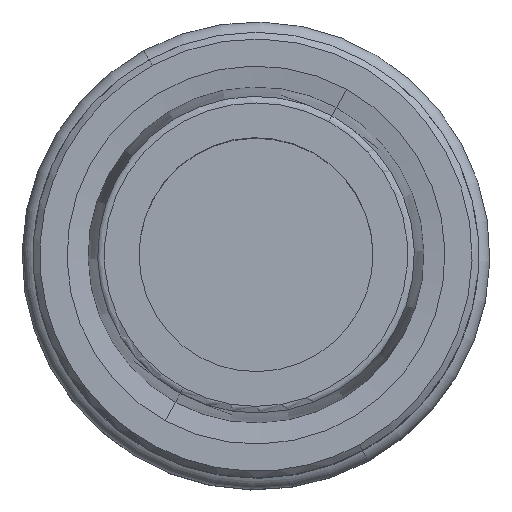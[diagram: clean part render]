
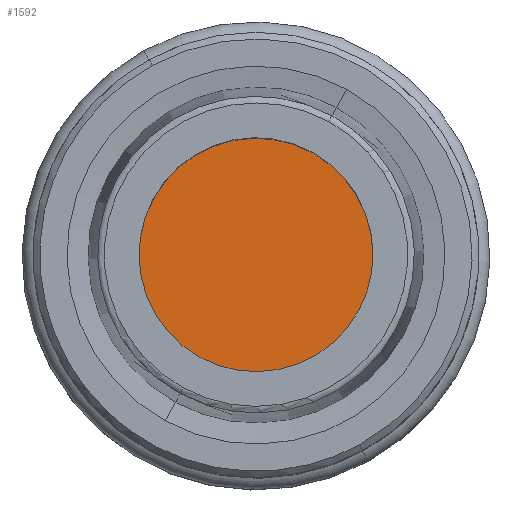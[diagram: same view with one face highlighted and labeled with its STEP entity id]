
A CAD part, top view. The second image highlights one B-rep face of the part: STEP entity #1592.
In plain terms, the highlighted planar face has unit normal (0, 0, 1).
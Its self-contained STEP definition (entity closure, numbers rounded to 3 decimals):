
#1572=AXIS2_PLACEMENT_3D('Plane Axis2P3D',#1569,#1570,#1571) ;
#1576=AXIS2_PLACEMENT_3D('Circle Axis2P3D',#1574,#1575,$) ;
#1585=AXIS2_PLACEMENT_3D('Circle Axis2P3D',#1583,#1584,$) ;
#1569=CARTESIAN_POINT('Axis2P3D Location',(0.,0.,-8.)) ;
#1574=CARTESIAN_POINT('Axis2P3D Location',(0.,0.,-8.)) ;
#1578=CARTESIAN_POINT('Vertex',(-5.034,-9.215,-8.)) ;
#1580=CARTESIAN_POINT('Vertex',(5.034,9.215,-8.)) ;
#1583=CARTESIAN_POINT('Axis2P3D Location',(0.,0.,-8.)) ;
#1570=DIRECTION('Axis2P3D Direction',(0.,0.,1.)) ;
#1571=DIRECTION('Axis2P3D XDirection',(1.,0.,0.)) ;
#1575=DIRECTION('Axis2P3D Direction',(0.,0.,1.)) ;
#1584=DIRECTION('Axis2P3D Direction',(0.,0.,1.)) ;
#1589=ORIENTED_EDGE('',*,*,#1582,.T.) ;
#1590=ORIENTED_EDGE('',*,*,#1587,.T.) ;
#1592=ADVANCED_FACE('NOCUT',(#1591),#1573,.T.) ;
#1577=CIRCLE('generated circle',#1576,10.5) ;
#1586=CIRCLE('generated circle',#1585,10.5) ;
#1582=EDGE_CURVE('',#1579,#1581,#1577,.T.) ;
#1587=EDGE_CURVE('',#1581,#1579,#1586,.T.) ;
#1588=EDGE_LOOP('',(#1589,#1590)) ;
#1591=FACE_OUTER_BOUND('',#1588,.T.) ;
#1573=PLANE('',#1572) ;
#1579=VERTEX_POINT('',#1578) ;
#1581=VERTEX_POINT('',#1580) ;
